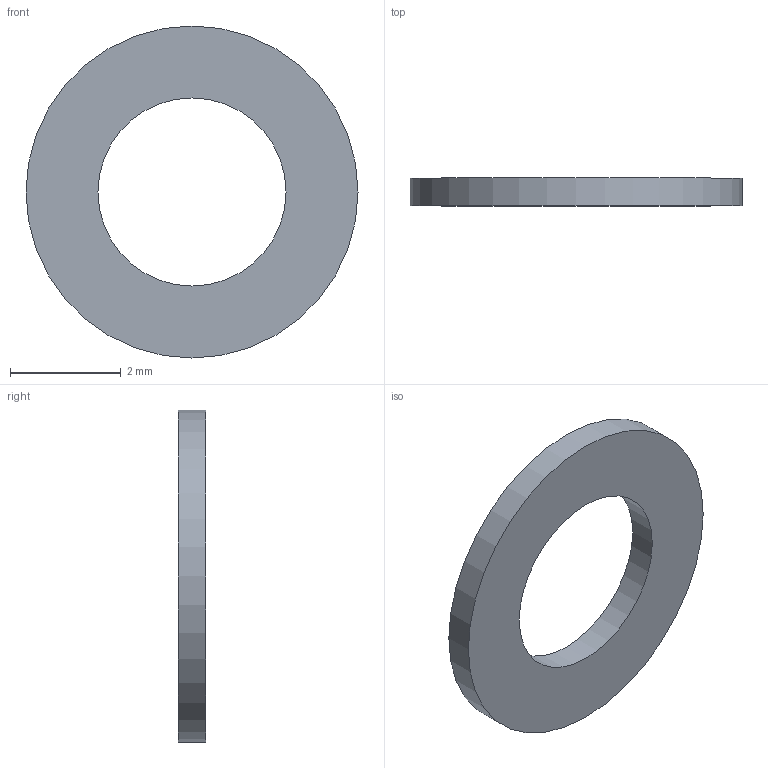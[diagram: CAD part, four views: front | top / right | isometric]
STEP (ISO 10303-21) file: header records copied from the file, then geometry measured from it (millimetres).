
FILE_DESCRIPTION(('Open CASCADE Model'),'2;1');
FILE_NAME('S05-roller_inner_collar.step', '', ('Noah Wilson'), (''), '', '', '');
FILE_SCHEMA(('AUTOMOTIVE_DESIGN { 1 0 10303 214 1 1 1 1 }'));
Length unit declared in the file: millimetre
Products named in the file (1): COMPOUND
Bounding box: 6 x 0.5 x 6 mm (x, y, z)
Volume: 9.6 mm3; surface area: 53.2 mm2
Topology: 1 solids, 1 shells, 4 faces, 6 edges, 4 vertices
Faces by surface type: cylinder 2, plane 2
Full cylindrical faces by diameter (mm): 3.4 x1, 6 x1
Entity records: 186 total; most frequent: DIRECTION 32, CARTESIAN_POINT 27, ORIENTED_EDGE 12, PCURVE 12, DEFINITIONAL_REPRESENTATION 12, LINE 10, VECTOR 10, AXIS2_PLACEMENT_3D 9
